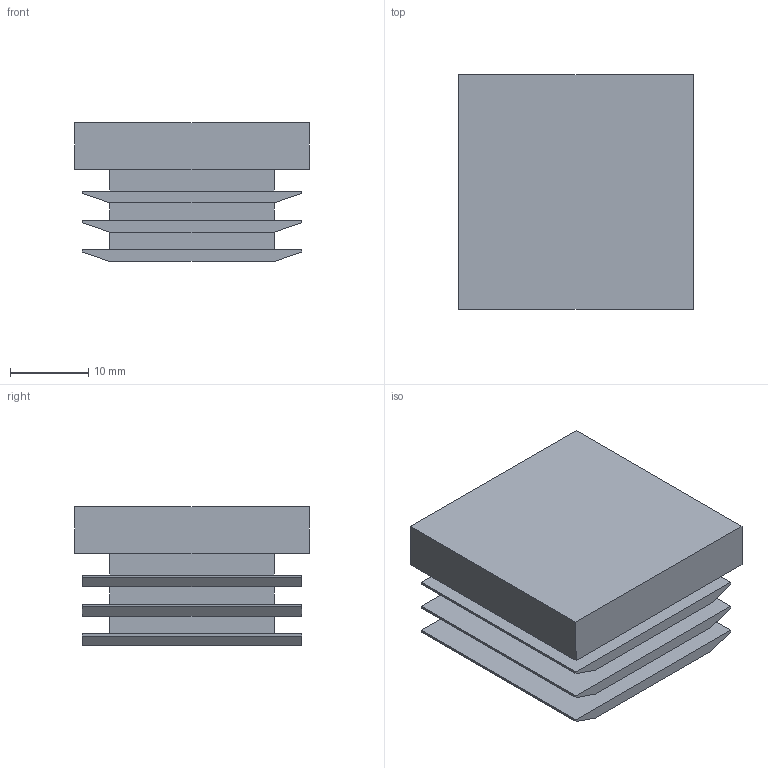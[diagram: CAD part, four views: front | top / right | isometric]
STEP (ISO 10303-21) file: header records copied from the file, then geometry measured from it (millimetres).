
FILE_DESCRIPTION (( 'STEP AP203' ), '1' );
FILE_NAME ('C030130.STEP', '2020-11-25T08:02:41', ( 'Localadmin' ), ( 'Microsoft' ), 'SwSTEP 2.0', 'SolidWorks 2018', '' );
FILE_SCHEMA (( 'CONFIG_CONTROL_DESIGN' ));
Length unit declared in the file: millimetre
Products named in the file (1): C030130
Bounding box: 30 x 30 x 17.75 mm (x, y, z)
Volume: 11772.5 mm3; surface area: 5497.8 mm2
Topology: 1 solids, 1 shells, 44 faces, 106 edges, 68 vertices
Faces by surface type: plane 44
Entity records: 1323 total; most frequent: CARTESIAN_POINT 219, ORIENTED_EDGE 212, DIRECTION 196, VECTOR 106, LINE 106, EDGE_CURVE 106, VERTEX_POINT 68, EDGE_LOOP 48
